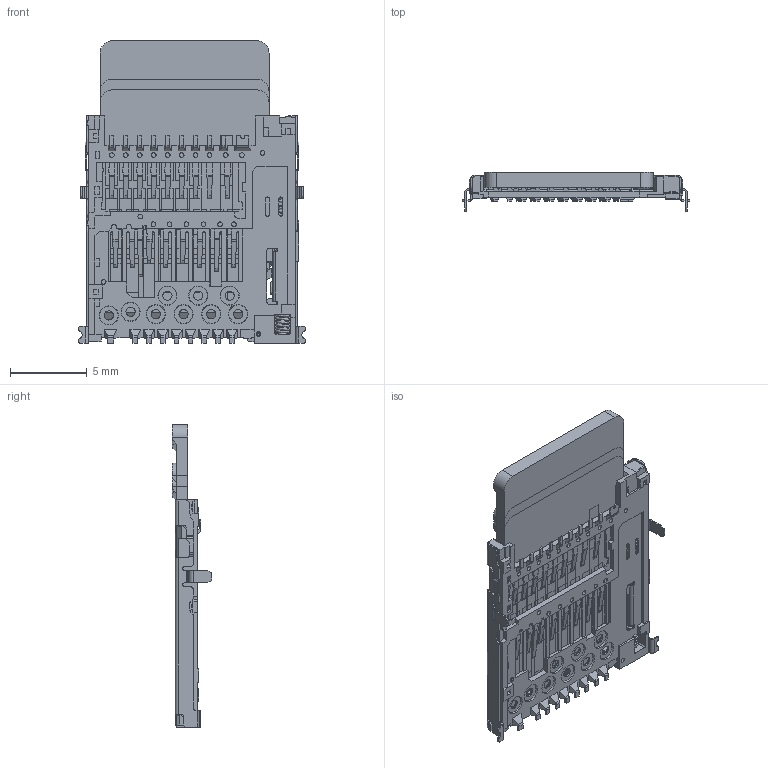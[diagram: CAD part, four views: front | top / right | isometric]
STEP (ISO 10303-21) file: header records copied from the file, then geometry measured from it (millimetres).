
FILE_DESCRIPTION (( 'STEP AP203' ), '1' );
FILE_NAME ('MC167_Comp_1pcs_000.STEP', '2022-08-27T01:06:33', ( '' ), ( '' ), 'SwSTEP 2.0', 'SolidWorks 2022', '' );
FILE_SCHEMA (( 'CONFIG_CONTROL_DESIGN' ));
Length unit declared in the file: millimetre
Products named in the file (5): MS_Spring_Initial_000; MC167_Comp_1pcs_000; Micro SD_4.0 UHS II CARD; MS_Link_000; 零件1^MC167_Comp_1pcs_000
Assembly tree (6 placements, depth 2):
  MC167_Comp_1pcs_000
    MS_Spring_Initial_000
    MS_Link_000
    Micro SD_4.0 UHS II CARD  x3
    零件1^MC167_Comp_1pcs_000
Bounding box: 14.8 x 2.57 x 19.7 mm (x, y, z)
Volume: 428 mm3; surface area: 1992.2 mm2
Topology: 6 solids, 8 shells, 2203 faces, 6139 edges, 4106 vertices
Faces by surface type: plane 1459, cylinder 656, cone 49, torus 29, bspline 10
Entity records: 73525 total; most frequent: CARTESIAN_POINT 20715, ORIENTED_EDGE 11000, DIRECTION 10871, EDGE_CURVE 5500, LINE 4121, VECTOR 4121, VERTEX_POINT 3546, AXIS2_PLACEMENT_3D 3375
